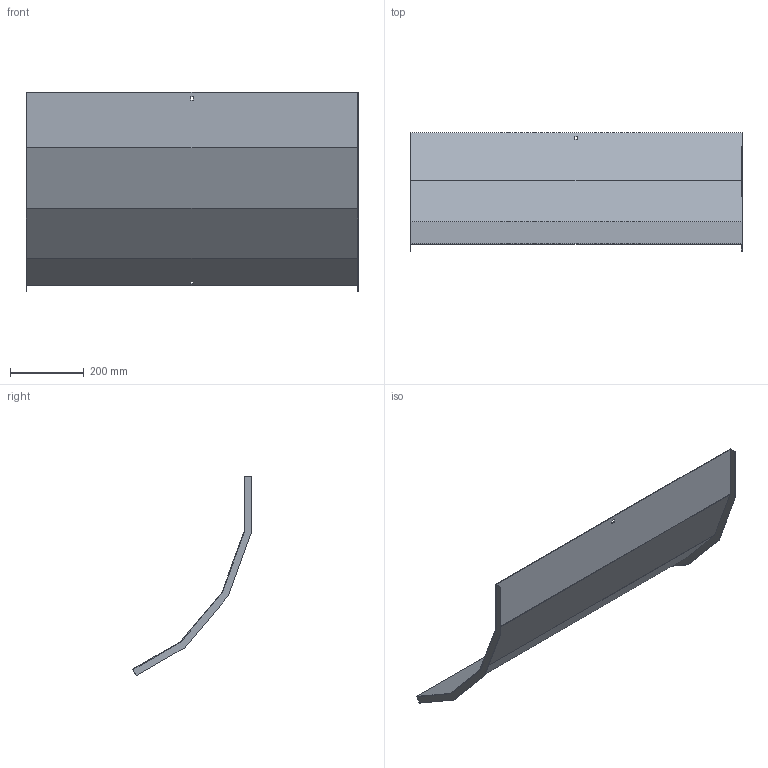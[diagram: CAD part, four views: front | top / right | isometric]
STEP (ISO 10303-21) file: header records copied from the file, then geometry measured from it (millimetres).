
FILE_DESCRIPTION (( 'STEP AP214' ), '1' );
FILE_NAME ('B2X40N5R900X.step', '2025-03-20T09:45:29', ( '' ), ( '' ), 'SwSTEP 2.0', 'SolidWorks 2023', '' );
FILE_SCHEMA (( 'AUTOMOTIVE_DESIGN' ));
Length unit declared in the file: millimetre
Products named in the file (1): B2X40N5R900X
Bounding box: 903 x 322.96 x 542.06 mm (x, y, z)
Volume: 920004.5 mm3; surface area: 1231600.9 mm2
Topology: 1 solids, 1 shells, 30 faces, 84 edges, 56 vertices
Faces by surface type: plane 30
Entity records: 979 total; most frequent: CARTESIAN_POINT 171, ORIENTED_EDGE 168, DIRECTION 146, EDGE_CURVE 84, VECTOR 84, LINE 84, VERTEX_POINT 56, EDGE_LOOP 34
